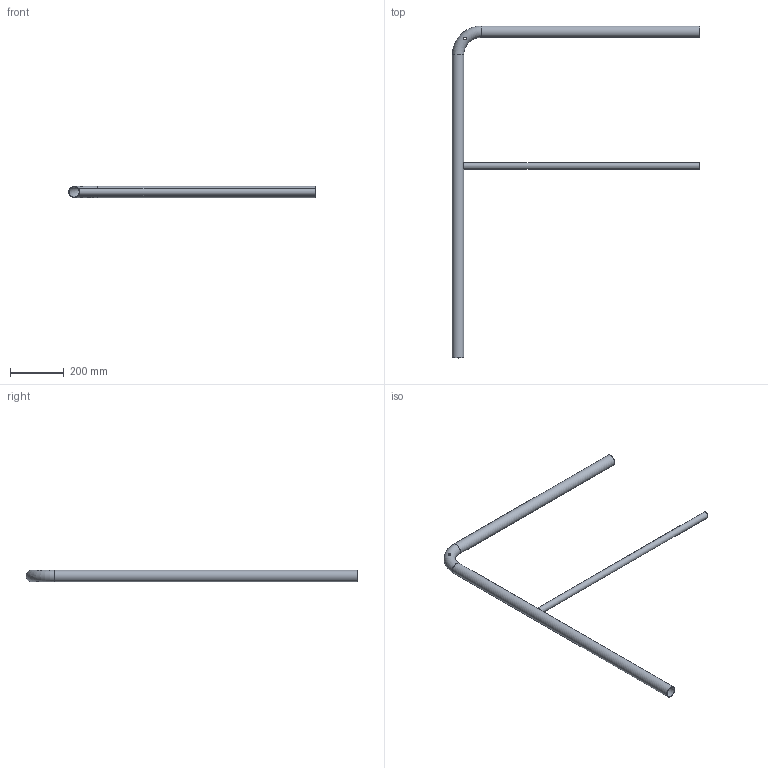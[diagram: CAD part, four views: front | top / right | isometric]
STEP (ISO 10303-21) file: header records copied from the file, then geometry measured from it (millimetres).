
FILE_DESCRIPTION((''),'2;1');
FILE_NAME('S:\Användarkataloger\AndreasA\Mina Inventor filer\Räcken\STEP\ändräcke_smodul_900-1216.stp','2010-09-07T13:41:03',('AndreasA'),(''),'Autodesk Inventor 2011','Autodesk Inventor 2011','');
FILE_SCHEMA(('AUTOMOTIVE_DESIGN { 1 0 10303 214 1 1 1 1 }'));
Length unit declared in the file: millimetre
Products named in the file (3): ändräcke_smodul_900-1216; hledare_ändräcke_smodul_900-1216; mellanliggare_stormodul_879
Assembly tree (2 placements, depth 2):
  ändräcke_smodul_900-1216
    hledare_ändräcke_smodul_900-1216
    mellanliggare_stormodul_879
Bounding box: 921.2 x 1237.2 x 42.4 mm (x, y, z)
Volume: 654383.9 mm3; surface area: 655308.9 mm2
Topology: 2 solids, 2 shells, 14 faces, 26 edges, 16 vertices
Faces by surface type: cylinder 8, plane 4, torus 2
Full cylindrical faces by diameter (mm): 10 x2, 21 x1, 25 x1, 38.4 x2, 42.4 x2
Entity records: 616 total; most frequent: CARTESIAN_POINT 277, DIRECTION 62, ORIENTED_EDGE 32, EDGE_LOOP 32, AXIS2_PLACEMENT_3D 31, FACE_BOUND 18, VERTEX_POINT 16, EDGE_CURVE 16
